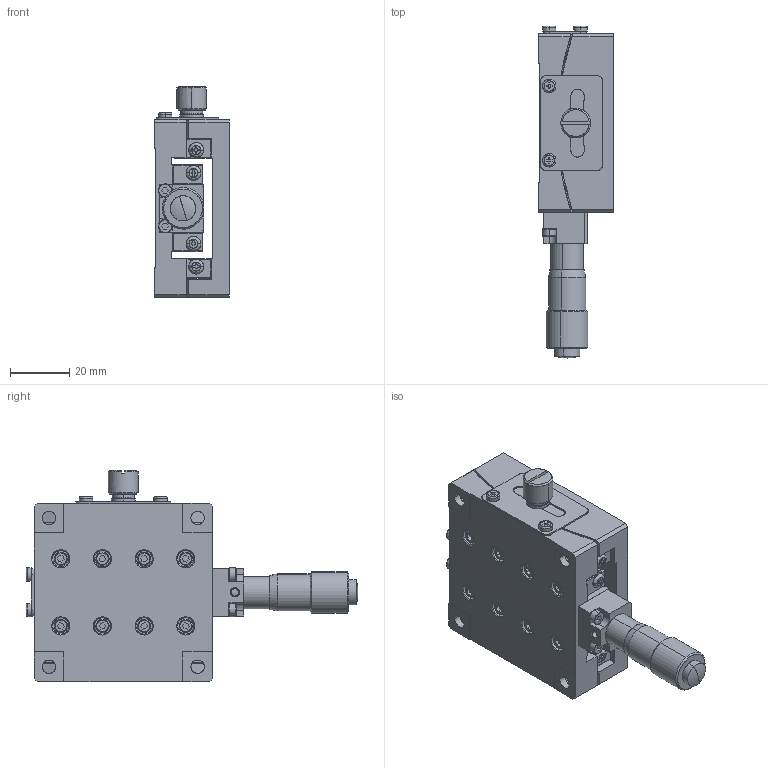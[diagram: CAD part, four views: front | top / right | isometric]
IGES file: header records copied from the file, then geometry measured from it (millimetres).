
Start section: SolidWorks IGES file using analytic representation for surfaces
Global section: file name: E:\0产品2d3d图纸-20180629\10PHT\60A\IGS\PHT-60A75CR.IGS; native system: SolidWorks 2015; preprocessor: SolidWorks 2015; author: Administrator; date: 190121.144445; units: millimetre
Bounding box: 25 x 111.61 x 71 mm (x, y, z)
Surface area: 47381.5 mm2 (no closed solid volume)
Topology: 0 solids, 0 shells, 1530 faces, 20433 edges, 20423 vertices
Faces by surface type: revolution 833, bspline 697
